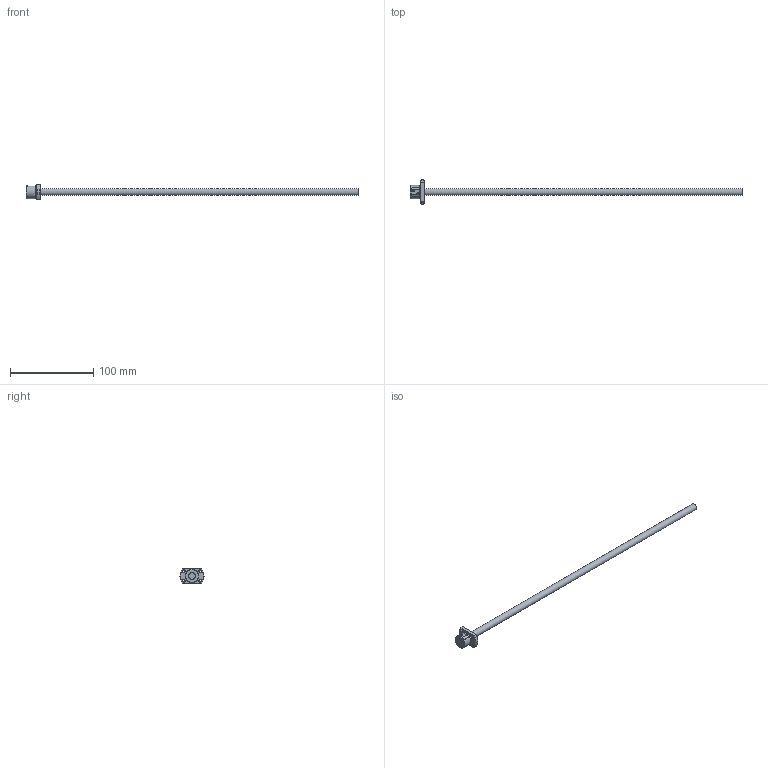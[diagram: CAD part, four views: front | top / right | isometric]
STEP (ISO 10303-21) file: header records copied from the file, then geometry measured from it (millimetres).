
FILE_DESCRIPTION( ( 'STEP AP203' ), '1' );
FILE_NAME( 'e:/temp/worker_103/temp/exporttempdir_5516_799_hXX1N/format_0/SR0801-400R400C10(0).stp', '2021-10-19T03:55:09', ( 'License CC BY-ND 4.0' ), ( 'CADENAS' ), ' ', 'PARTsolutions', ' ' );
FILE_SCHEMA( ( 'CONFIG_CONTROL_DESIGN' ) );
Length unit declared in the file: millimetre
Products named in the file (3): SR0801-400R400C10(0); _SR0801-400R400C10C10(0)_shaft; _SR0801-400R400C10C10_nut
Assembly tree (2 placements, depth 2):
  SR0801-400R400C10(0)
    _SR0801-400R400C10C10(0)_shaft
    _SR0801-400R400C10C10_nut
Bounding box: 400 x 29 x 18 mm (x, y, z)
Volume: 23563.1 mm3; surface area: 12554.5 mm2
Topology: 2 solids, 2 shells, 54 faces, 142 edges, 93 vertices
Faces by surface type: plane 23, cylinder 22, cone 9
Full cylindrical faces by diameter (mm): 1.07 x2, 3.4 x4, 8 x2, 15.5 x1, 16 x1
Entity records: 1712 total; most frequent: CARTESIAN_POINT 335, DIRECTION 270, ORIENTED_EDGE 242, EDGE_CURVE 121, AXIS2_PLACEMENT_3D 110, VERTEX_POINT 87, EDGE_LOOP 80, FACE_OUTER_BOUND 64
